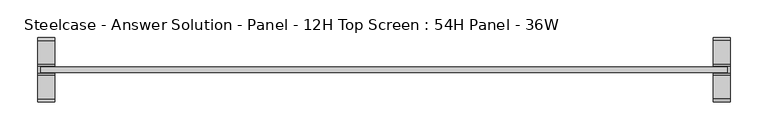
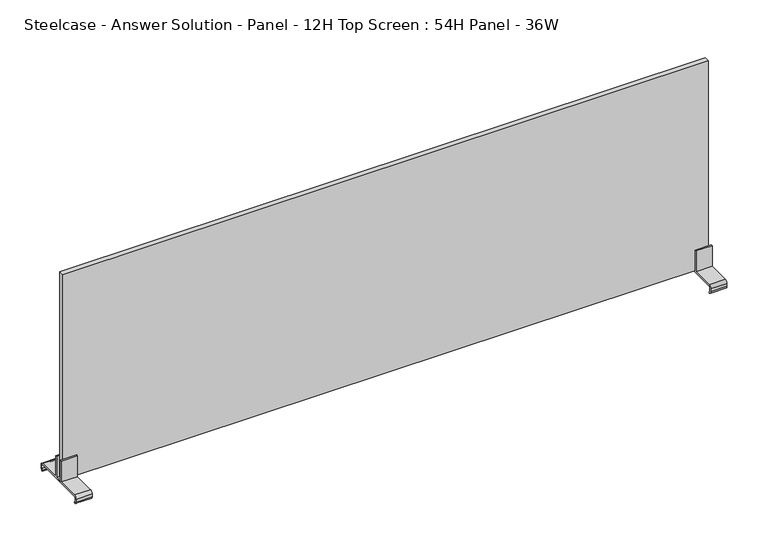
"""IFC4 building model written with IfcOpenShell, lengths in millimetres: furniture geometry, Steelcase - Answer Solution - Panel - 12H Top Screen : 54H Panel - 36W."""

from ifc_helpers import new_model, si_unit, point, frame, frame_2d, origin, place, context, project, spatial, polyline, circle_curve, trimmed, segment, composite_curve, outline, extrude, source, transform, mapped, element, save


def steelcase_answer_solution_panel_12h_top_screen_54h_panel_36w_2e92ecda(model_context):
    return source(origin(), model_context, "Body", "SweptSolid", [
        extrude(outline(polyline([(453.136, -3.683001), (-453.136, -3.683001), (-453.136, 3.683001), (453.136, 3.683001), (453.136, -3.683001)])), frame((0.0, 0.0, 1379.9819981), z_axis=(0.0, 0.0, 1.0), x_axis=(1.0, 0.0, 0.0)), (0.0, 0.0, 1.0), 304.8),
        extrude(outline(composite_curve([segment(trimmed(circle_curve(frame_2d((38.5445, 1376.045)), 1.905), [point((40.4495, 1376.045))], [point((38.5445, 1377.95))], True, "CARTESIAN"), True, "CONTINUOUS"), segment(polyline([(38.5445, 1377.95), (-38.5445, 1377.95)]), True, "CONTINUOUS"), segment(trimmed(circle_curve(frame_2d((-38.5445, 1376.045)), 1.905), [point((-38.5445, 1377.95))], [point((-40.4495, 1376.045))], True, "CARTESIAN"), True, "CONTINUOUS"), segment(polyline([(-40.4495, 1376.045), (-40.4495, 1371.4341187)]), True, "CONTINUOUS"), segment(trimmed(circle_curve(frame_2d((-38.5445, 1371.4341187)), 1.905), [point((-40.4495, 1371.4341187))], [point((-38.6743328, 1369.5335481))], True, "CARTESIAN"), True, "CONTINUOUS"), segment(polyline([(-38.6743328, 1369.5335481), (-39.2392449, 1367.9535566)]), True, "CONTINUOUS"), segment(trimmed(circle_curve(frame_2d((-38.5459934, 1371.8284569)), 3.9364261), [point((-39.2392449, 1367.9535566))], [point((-42.4824195, 1371.8284569))], False, "CARTESIAN"), True, "CONTINUOUS"), segment(polyline([(-42.4824195, 1371.8284569), (-42.4824195, 1376.0452288)]), True, "CONTINUOUS"), segment(trimmed(circle_curve(frame_2d((-38.5459934, 1376.0452288)), 3.9364261), [point((-42.4824195, 1376.0452288))], [point((-38.5459934, 1379.9816549))], False, "CARTESIAN"), True, "CONTINUOUS"), segment(polyline([(-38.5459934, 1379.9816549), (-6.7310004, 1379.9816549), (-6.7310004, 1410.9699952), (-4.699, 1410.9699952), (-4.699, 1379.9819952), (4.699, 1379.9819952), (4.699, 1410.9700048), (6.7310004, 1410.9700048), (6.7310004, 1379.9816549), (38.5459934, 1379.9816549)]), True, "CONTINUOUS"), segment(trimmed(circle_curve(frame_2d((38.5459934, 1376.0452288)), 3.9364261), [point((38.5459934, 1379.9816549))], [point((42.4824195, 1376.0452288))], False, "CARTESIAN"), True, "CONTINUOUS"), segment(polyline([(42.4824195, 1376.0452288), (42.4824195, 1371.8284569)]), True, "CONTINUOUS"), segment(trimmed(circle_curve(frame_2d((38.5459934, 1371.8284569)), 3.9364261), [point((42.4824195, 1371.8284569))], [point((39.6631716, 1368.0538889))], False, "CARTESIAN"), True, "CONTINUOUS"), segment(polyline([(39.6631716, 1368.0538889), (39.1055128, 1369.6135996)]), True, "CONTINUOUS"), segment(trimmed(circle_curve(frame_2d((38.5445, 1371.4341187)), 1.905), [point((39.1055128, 1369.6135996))], [point((40.4495, 1371.4341187))], True, "CARTESIAN"), True, "CONTINUOUS"), segment(polyline([(40.4495, 1371.4341187), (40.4495, 1376.045)]), True, "CONTINUOUS")], self_intersect=False)), frame((434.594, 0.0, 0.0), z_axis=(1.0, 0.0, 0.0), x_axis=(0.0, 1.0, 0.0)), (0.0, 0.0, 1.0), 22.606),
        extrude(outline(composite_curve([segment(trimmed(circle_curve(frame_2d((38.5445, 1376.045)), 1.905), [point((40.4495, 1376.045))], [point((38.5445, 1377.95))], True, "CARTESIAN"), True, "CONTINUOUS"), segment(polyline([(38.5445, 1377.95), (-38.5445, 1377.95)]), True, "CONTINUOUS"), segment(trimmed(circle_curve(frame_2d((-38.5445, 1376.045)), 1.905), [point((-38.5445, 1377.95))], [point((-40.4495, 1376.045))], True, "CARTESIAN"), True, "CONTINUOUS"), segment(polyline([(-40.4495, 1376.045), (-40.4495, 1371.4341187)]), True, "CONTINUOUS"), segment(trimmed(circle_curve(frame_2d((-38.5445, 1371.4341187)), 1.905), [point((-40.4495, 1371.4341187))], [point((-38.6743328, 1369.5335481))], True, "CARTESIAN"), True, "CONTINUOUS"), segment(polyline([(-38.6743328, 1369.5335481), (-39.2392449, 1367.9535566)]), True, "CONTINUOUS"), segment(trimmed(circle_curve(frame_2d((-38.5459934, 1371.8284569)), 3.9364261), [point((-39.2392449, 1367.9535566))], [point((-42.4824195, 1371.8284569))], False, "CARTESIAN"), True, "CONTINUOUS"), segment(polyline([(-42.4824195, 1371.8284569), (-42.4824195, 1376.0452288)]), True, "CONTINUOUS"), segment(trimmed(circle_curve(frame_2d((-38.5459934, 1376.0452288)), 3.9364261), [point((-42.4824195, 1376.0452288))], [point((-38.5459934, 1379.9816549))], False, "CARTESIAN"), True, "CONTINUOUS"), segment(polyline([(-38.5459934, 1379.9816549), (-6.7310004, 1379.9816549), (-6.7310004, 1410.9699952), (-4.699, 1410.9699952), (-4.699, 1379.9819952), (4.699, 1379.9819952), (4.699, 1410.9700048), (6.7310004, 1410.9700048), (6.7310004, 1379.9816549), (38.5459934, 1379.9816549)]), True, "CONTINUOUS"), segment(trimmed(circle_curve(frame_2d((38.5459934, 1376.0452288)), 3.9364261), [point((38.5459934, 1379.9816549))], [point((42.4824195, 1376.0452288))], False, "CARTESIAN"), True, "CONTINUOUS"), segment(polyline([(42.4824195, 1376.0452288), (42.4824195, 1371.8284569)]), True, "CONTINUOUS"), segment(trimmed(circle_curve(frame_2d((38.5459934, 1371.8284569)), 3.9364261), [point((42.4824195, 1371.8284569))], [point((39.6631716, 1368.0538889))], False, "CARTESIAN"), True, "CONTINUOUS"), segment(polyline([(39.6631716, 1368.0538889), (39.1055128, 1369.6135996)]), True, "CONTINUOUS"), segment(trimmed(circle_curve(frame_2d((38.5445, 1371.4341187)), 1.905), [point((39.1055128, 1369.6135996))], [point((40.4495, 1371.4341187))], True, "CARTESIAN"), True, "CONTINUOUS"), segment(polyline([(40.4495, 1371.4341187), (40.4495, 1376.045)]), True, "CONTINUOUS")], self_intersect=False)), frame((-457.2, 0.0, 0.0), z_axis=(1.0, 0.0, 0.0), x_axis=(0.0, 1.0, 0.0)), (0.0, 0.0, 1.0), 22.606),
    ])


if __name__ == "__main__":
    model = new_model("IFC4")
    model_context = context("Model", 3, world=origin())
    ifc_project = project(units=[si_unit("LENGTHUNIT", "METRE", prefix="MILLI")], contexts=[model_context])
    site = spatial("IfcSite", under=ifc_project)
    building = spatial("IfcBuilding", under=site)
    placement = place(None, origin())
    steelcase_answer_solution_panel_12h_top_screen_54h_panel_36w_shape = steelcase_answer_solution_panel_12h_top_screen_54h_panel_36w_2e92ecda(model_context)
    element("IfcFurniture", 1, ObjectType="Steelcase - Answer Solution - Panel - 12H Top Screen : 54H Panel - 36W", at=placement, inside=building, context=model_context, shape_type="MappedRepresentation", body=[
        mapped(steelcase_answer_solution_panel_12h_top_screen_54h_panel_36w_shape, transform((0.0, 0.0, 0.0), x_axis=(1.0, 0.0, 0.0), y_axis=(0.0, 1.0, 0.0), z_axis=(0.0, 0.0, 1.0))),
    ])
    save(model, "model.ifc")
